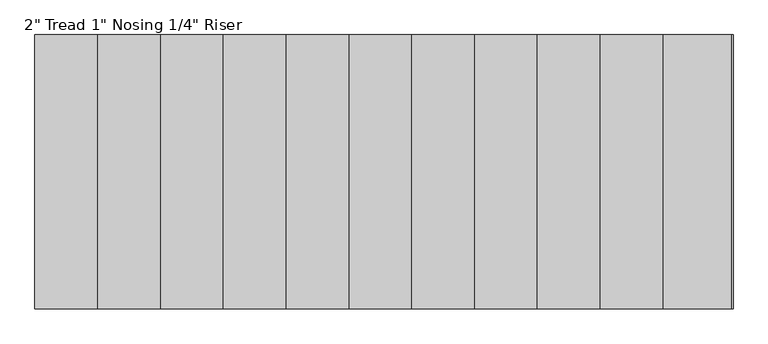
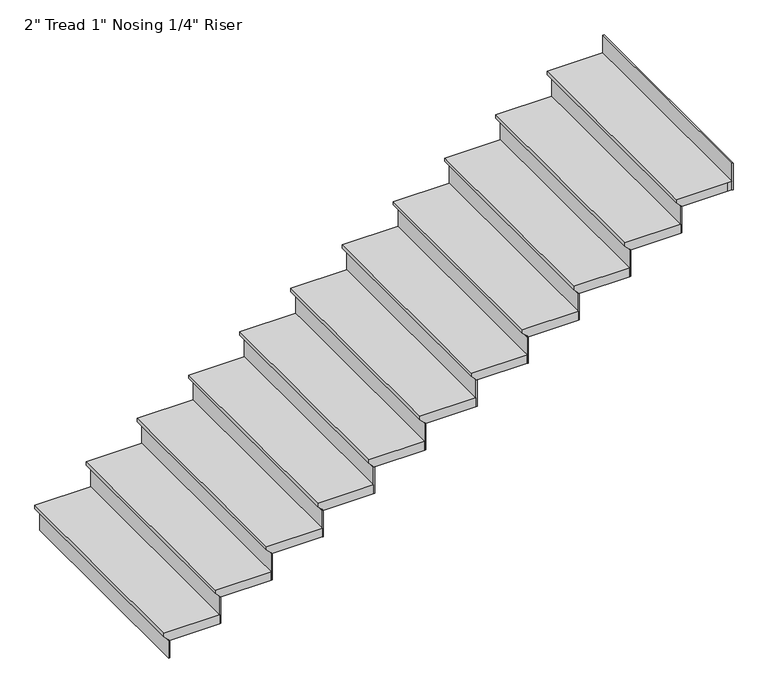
"""IFC4 building model written with IfcOpenShell, lengths in millimetres: stair flight geometry."""

from ifc_helpers import new_model, si_unit, origin, place, context, project, spatial, faceted_brep, source, transform, mapped, element, save


def stair_flight_750c05fa(model_context):
    return source(origin(), model_context, "Body", "Brep", [
        faceted_brep([(15326.0726301, 7726.1746638, 133.35), (15326.0726301, 7726.1746638, 152.4), (15326.0726301, 8945.3746638, 152.4), (15326.0726301, 8945.3746638, 133.35), (15351.4726301, 7726.1746638, 107.95), (15351.4726301, 8945.3746638, 107.95), (15630.8726301, 7726.1746638, 152.4), (15630.8726301, 8945.3746638, 152.4), (15351.4726301, 8945.3746638, 101.6), (15630.8726301, 8945.3746638, 101.6), (15630.8726301, 7726.1746638, 101.6), (15351.4726301, 7726.1746638, 101.6)], [[[0, 1, 2, 3]], [[4, 0, 3, 5]], [[2, 1, 6, 7]], [[8, 9, 10, 11]], [[2, 7, 9, 8, 5, 3]], [[8, 11, 4, 5]], [[6, 1, 0, 4, 11, 10]], [[7, 6, 10, 9]]]),
        faceted_brep([(15351.4726301, 7726.1746638, 101.6), (15351.4726301, 7726.1746638, 0.0), (15357.8226301, 7726.1746638, 0.0), (15357.8226301, 7726.1746638, 101.6), (15351.4726301, 8945.3746638, 101.6), (15357.8226301, 8945.3746638, 101.6), (15357.8226301, 8945.3746638, 0.0), (15351.4726301, 8945.3746638, 0.0)], [[[0, 1, 2, 3]], [[4, 5, 6, 7]], [[1, 0, 4, 7]], [[2, 1, 7, 6]], [[3, 2, 6, 5]], [[0, 3, 5, 4]]]),
        faceted_brep([(15630.8726301, 7726.1746638, 254.0), (15630.8726301, 7726.1746638, 101.6), (15637.2226301, 7726.1746638, 101.6), (15637.2226301, 7726.1746638, 254.0), (15630.8726301, 8945.3746638, 254.0), (15637.2226301, 8945.3746638, 254.0), (15637.2226301, 8945.3746638, 101.6), (15630.8726301, 8945.3746638, 101.6)], [[[0, 1, 2, 3]], [[4, 5, 6, 7]], [[1, 0, 4, 7]], [[2, 1, 7, 6]], [[3, 2, 6, 5]], [[0, 3, 5, 4]]]),
        faceted_brep([(15605.4726301, 8945.3746638, 304.8), (15605.4726301, 7726.1746638, 304.8), (15910.2726301, 7726.1746638, 304.8), (15910.2726301, 8945.3746638, 304.8), (15630.8726301, 8945.3746638, 254.0), (15910.2726301, 8945.3746638, 254.0), (15910.2726301, 7726.1746638, 254.0), (15630.8726301, 7726.1746638, 254.0), (15630.8726301, 8945.3746638, 260.35), (15605.4726301, 8945.3746638, 285.75), (15630.8726301, 7726.1746638, 260.35), (15605.4726301, 7726.1746638, 285.75)], [[[0, 1, 2, 3]], [[4, 5, 6, 7]], [[0, 3, 5, 4, 8, 9]], [[4, 7, 10, 8]], [[2, 1, 11, 10, 7, 6]], [[3, 2, 6, 5]], [[11, 1, 0, 9]], [[10, 11, 9, 8]]]),
        faceted_brep([(15910.2726301, 7726.1746638, 406.4), (15910.2726301, 7726.1746638, 254.0), (15916.6226301, 7726.1746638, 254.0), (15916.6226301, 7726.1746638, 406.4), (15910.2726301, 8945.3746638, 406.4), (15916.6226301, 8945.3746638, 406.4), (15916.6226301, 8945.3746638, 254.0), (15910.2726301, 8945.3746638, 254.0)], [[[0, 1, 2, 3]], [[4, 5, 6, 7]], [[1, 0, 4, 7]], [[2, 1, 7, 6]], [[3, 2, 6, 5]], [[0, 3, 5, 4]]]),
        faceted_brep([(15884.8726301, 8945.3746638, 457.2), (15884.8726301, 7726.1746638, 457.2), (16189.6726301, 7726.1746638, 457.2), (16189.6726301, 8945.3746638, 457.2), (15910.2726301, 8945.3746638, 406.4), (16189.6726301, 8945.3746638, 406.4), (16189.6726301, 7726.1746638, 406.4), (15910.2726301, 7726.1746638, 406.4), (15910.2726301, 8945.3746638, 412.75), (15884.8726301, 8945.3746638, 438.15), (15910.2726301, 7726.1746638, 412.75), (15884.8726301, 7726.1746638, 438.15)], [[[0, 1, 2, 3]], [[4, 5, 6, 7]], [[0, 3, 5, 4, 8, 9]], [[4, 7, 10, 8]], [[2, 1, 11, 10, 7, 6]], [[3, 2, 6, 5]], [[11, 1, 0, 9]], [[10, 11, 9, 8]]]),
        faceted_brep([(16189.6726301, 7726.1746638, 558.8), (16189.6726301, 7726.1746638, 406.4), (16196.0226301, 7726.1746638, 406.4), (16196.0226301, 7726.1746638, 558.8), (16189.6726301, 8945.3746638, 558.8), (16196.0226301, 8945.3746638, 558.8), (16196.0226301, 8945.3746638, 406.4), (16189.6726301, 8945.3746638, 406.4)], [[[0, 1, 2, 3]], [[4, 5, 6, 7]], [[1, 0, 4, 7]], [[2, 1, 7, 6]], [[3, 2, 6, 5]], [[0, 3, 5, 4]]]),
        faceted_brep([(16164.2726301, 8945.3746638, 609.6), (16164.2726301, 7726.1746638, 609.6), (16469.0726301, 7726.1746638, 609.6), (16469.0726301, 8945.3746638, 609.6), (16189.6726301, 8945.3746638, 558.8), (16469.0726301, 8945.3746638, 558.8), (16469.0726301, 7726.1746638, 558.8), (16189.6726301, 7726.1746638, 558.8), (16189.6726301, 8945.3746638, 565.15), (16164.2726301, 8945.3746638, 590.55), (16189.6726301, 7726.1746638, 565.15), (16164.2726301, 7726.1746638, 590.55)], [[[0, 1, 2, 3]], [[4, 5, 6, 7]], [[0, 3, 5, 4, 8, 9]], [[4, 7, 10, 8]], [[2, 1, 11, 10, 7, 6]], [[3, 2, 6, 5]], [[11, 1, 0, 9]], [[10, 11, 9, 8]]]),
        faceted_brep([(16469.0726301, 7726.1746638, 711.2), (16469.0726301, 7726.1746638, 558.8), (16475.4226301, 7726.1746638, 558.8), (16475.4226301, 7726.1746638, 711.2), (16469.0726301, 8945.3746638, 711.2), (16475.4226301, 8945.3746638, 711.2), (16475.4226301, 8945.3746638, 558.8), (16469.0726301, 8945.3746638, 558.8)], [[[0, 1, 2, 3]], [[4, 5, 6, 7]], [[1, 0, 4, 7]], [[2, 1, 7, 6]], [[3, 2, 6, 5]], [[0, 3, 5, 4]]]),
        faceted_brep([(16443.6726301, 8945.3746638, 762.0), (16443.6726301, 7726.1746638, 762.0), (16748.4726301, 7726.1746638, 762.0), (16748.4726301, 8945.3746638, 762.0), (16469.0726301, 8945.3746638, 711.2), (16748.4726301, 8945.3746638, 711.2), (16748.4726301, 7726.1746638, 711.2), (16469.0726301, 7726.1746638, 711.2), (16469.0726301, 8945.3746638, 717.55), (16443.6726301, 8945.3746638, 742.95), (16469.0726301, 7726.1746638, 717.55), (16443.6726301, 7726.1746638, 742.95)], [[[0, 1, 2, 3]], [[4, 5, 6, 7]], [[0, 3, 5, 4, 8, 9]], [[4, 7, 10, 8]], [[2, 1, 11, 10, 7, 6]], [[3, 2, 6, 5]], [[11, 1, 0, 9]], [[10, 11, 9, 8]]]),
        faceted_brep([(16748.4726301, 7726.1746638, 863.6), (16748.4726301, 7726.1746638, 711.2), (16754.8226301, 7726.1746638, 711.2), (16754.8226301, 7726.1746638, 863.6), (16748.4726301, 8945.3746638, 863.6), (16754.8226301, 8945.3746638, 863.6), (16754.8226301, 8945.3746638, 711.2), (16748.4726301, 8945.3746638, 711.2)], [[[0, 1, 2, 3]], [[4, 5, 6, 7]], [[1, 0, 4, 7]], [[2, 1, 7, 6]], [[3, 2, 6, 5]], [[0, 3, 5, 4]]]),
        faceted_brep([(16723.0726301, 8945.3746638, 914.4), (16723.0726301, 7726.1746638, 914.4), (17027.8726301, 7726.1746638, 914.4), (17027.8726301, 8945.3746638, 914.4), (16748.4726301, 8945.3746638, 863.6), (17027.8726301, 8945.3746638, 863.6), (17027.8726301, 7726.1746638, 863.6), (16748.4726301, 7726.1746638, 863.6), (16748.4726301, 8945.3746638, 869.95), (16723.0726301, 8945.3746638, 895.35), (16748.4726301, 7726.1746638, 869.95), (16723.0726301, 7726.1746638, 895.35)], [[[0, 1, 2, 3]], [[4, 5, 6, 7]], [[0, 3, 5, 4, 8, 9]], [[4, 7, 10, 8]], [[2, 1, 11, 10, 7, 6]], [[3, 2, 6, 5]], [[11, 1, 0, 9]], [[10, 11, 9, 8]]]),
        faceted_brep([(17027.8726301, 7726.1746638, 1016.0), (17027.8726301, 7726.1746638, 863.6), (17034.2226301, 7726.1746638, 863.6), (17034.2226301, 7726.1746638, 1016.0), (17027.8726301, 8945.3746638, 1016.0), (17034.2226301, 8945.3746638, 1016.0), (17034.2226301, 8945.3746638, 863.6), (17027.8726301, 8945.3746638, 863.6)], [[[0, 1, 2, 3]], [[4, 5, 6, 7]], [[1, 0, 4, 7]], [[2, 1, 7, 6]], [[3, 2, 6, 5]], [[0, 3, 5, 4]]]),
        faceted_brep([(17002.4726301, 8945.3746638, 1066.8), (17002.4726301, 7726.1746638, 1066.8), (17307.2726301, 7726.1746638, 1066.8), (17307.2726301, 8945.3746638, 1066.8), (17027.8726301, 8945.3746638, 1016.0), (17307.2726301, 8945.3746638, 1016.0), (17307.2726301, 7726.1746638, 1016.0), (17027.8726301, 7726.1746638, 1016.0), (17027.8726301, 8945.3746638, 1022.35), (17002.4726301, 8945.3746638, 1047.75), (17027.8726301, 7726.1746638, 1022.35), (17002.4726301, 7726.1746638, 1047.75)], [[[0, 1, 2, 3]], [[4, 5, 6, 7]], [[0, 3, 5, 4, 8, 9]], [[4, 7, 10, 8]], [[2, 1, 11, 10, 7, 6]], [[3, 2, 6, 5]], [[11, 1, 0, 9]], [[10, 11, 9, 8]]]),
        faceted_brep([(17307.2726301, 7726.1746638, 1168.4), (17307.2726301, 7726.1746638, 1016.0), (17313.6226301, 7726.1746638, 1016.0), (17313.6226301, 7726.1746638, 1168.4), (17307.2726301, 8945.3746638, 1168.4), (17313.6226301, 8945.3746638, 1168.4), (17313.6226301, 8945.3746638, 1016.0), (17307.2726301, 8945.3746638, 1016.0)], [[[0, 1, 2, 3]], [[4, 5, 6, 7]], [[1, 0, 4, 7]], [[2, 1, 7, 6]], [[3, 2, 6, 5]], [[0, 3, 5, 4]]]),
        faceted_brep([(17281.8726301, 8945.3746638, 1219.2), (17281.8726301, 7726.1746638, 1219.2), (17586.6726301, 7726.1746638, 1219.2), (17586.6726301, 8945.3746638, 1219.2), (17307.2726301, 8945.3746638, 1168.4), (17586.6726301, 8945.3746638, 1168.4), (17586.6726301, 7726.1746638, 1168.4), (17307.2726301, 7726.1746638, 1168.4), (17307.2726301, 8945.3746638, 1174.75), (17281.8726301, 8945.3746638, 1200.15), (17307.2726301, 7726.1746638, 1174.75), (17281.8726301, 7726.1746638, 1200.15)], [[[0, 1, 2, 3]], [[4, 5, 6, 7]], [[0, 3, 5, 4, 8, 9]], [[4, 7, 10, 8]], [[2, 1, 11, 10, 7, 6]], [[3, 2, 6, 5]], [[11, 1, 0, 9]], [[10, 11, 9, 8]]]),
        faceted_brep([(17586.6726301, 7726.1746638, 1320.8), (17586.6726301, 7726.1746638, 1168.4), (17593.0226301, 7726.1746638, 1168.4), (17593.0226301, 7726.1746638, 1320.8), (17586.6726301, 8945.3746638, 1320.8), (17593.0226301, 8945.3746638, 1320.8), (17593.0226301, 8945.3746638, 1168.4), (17586.6726301, 8945.3746638, 1168.4)], [[[0, 1, 2, 3]], [[4, 5, 6, 7]], [[1, 0, 4, 7]], [[2, 1, 7, 6]], [[3, 2, 6, 5]], [[0, 3, 5, 4]]]),
        faceted_brep([(17561.2726301, 8945.3746638, 1371.6), (17561.2726301, 7726.1746638, 1371.6), (17866.0726301, 7726.1746638, 1371.6), (17866.0726301, 8945.3746638, 1371.6), (17586.6726301, 8945.3746638, 1320.8), (17866.0726301, 8945.3746638, 1320.8), (17866.0726301, 7726.1746638, 1320.8), (17586.6726301, 7726.1746638, 1320.8), (17586.6726301, 8945.3746638, 1327.15), (17561.2726301, 8945.3746638, 1352.55), (17586.6726301, 7726.1746638, 1327.15), (17561.2726301, 7726.1746638, 1352.55)], [[[0, 1, 2, 3]], [[4, 5, 6, 7]], [[0, 3, 5, 4, 8, 9]], [[4, 7, 10, 8]], [[2, 1, 11, 10, 7, 6]], [[3, 2, 6, 5]], [[11, 1, 0, 9]], [[10, 11, 9, 8]]]),
        faceted_brep([(17866.0726301, 7726.1746638, 1473.2), (17866.0726301, 7726.1746638, 1320.8), (17872.4226301, 7726.1746638, 1320.8), (17872.4226301, 7726.1746638, 1473.2), (17866.0726301, 8945.3746638, 1473.2), (17872.4226301, 8945.3746638, 1473.2), (17872.4226301, 8945.3746638, 1320.8), (17866.0726301, 8945.3746638, 1320.8)], [[[0, 1, 2, 3]], [[4, 5, 6, 7]], [[1, 0, 4, 7]], [[2, 1, 7, 6]], [[3, 2, 6, 5]], [[0, 3, 5, 4]]]),
        faceted_brep([(17840.6726301, 8945.3746638, 1524.0), (17840.6726301, 7726.1746638, 1524.0), (18145.4726301, 7726.1746638, 1524.0), (18145.4726301, 8945.3746638, 1524.0), (17866.0726301, 8945.3746638, 1473.2), (18145.4726301, 8945.3746638, 1473.2), (18145.4726301, 7726.1746638, 1473.2), (17866.0726301, 7726.1746638, 1473.2), (17866.0726301, 8945.3746638, 1479.55), (17840.6726301, 8945.3746638, 1504.95), (17866.0726301, 7726.1746638, 1479.55), (17840.6726301, 7726.1746638, 1504.95)], [[[0, 1, 2, 3]], [[4, 5, 6, 7]], [[0, 3, 5, 4, 8, 9]], [[4, 7, 10, 8]], [[2, 1, 11, 10, 7, 6]], [[3, 2, 6, 5]], [[11, 1, 0, 9]], [[10, 11, 9, 8]]]),
        faceted_brep([(18424.8726301, 7726.1746638, 1778.0), (18424.8726301, 7726.1746638, 1625.6), (18431.2226301, 7726.1746638, 1625.6), (18431.2226301, 7726.1746638, 1778.0), (18424.8726301, 8945.3746638, 1778.0), (18431.2226301, 8945.3746638, 1778.0), (18431.2226301, 8945.3746638, 1625.6), (18424.8726301, 8945.3746638, 1625.6)], [[[0, 1, 2, 3]], [[4, 5, 6, 7]], [[1, 0, 4, 7]], [[2, 1, 7, 6]], [[3, 2, 6, 5]], [[0, 3, 5, 4]]]),
        faceted_brep([(18145.4726301, 7726.1746638, 1625.6), (18145.4726301, 7726.1746638, 1473.2), (18151.8226301, 7726.1746638, 1473.2), (18151.8226301, 7726.1746638, 1625.6), (18145.4726301, 8945.3746638, 1625.6), (18151.8226301, 8945.3746638, 1625.6), (18151.8226301, 8945.3746638, 1473.2), (18145.4726301, 8945.3746638, 1473.2)], [[[0, 1, 2, 3]], [[4, 5, 6, 7]], [[1, 0, 4, 7]], [[2, 1, 7, 6]], [[3, 2, 6, 5]], [[0, 3, 5, 4]]]),
        faceted_brep([(18424.8726301, 8945.3746638, 1676.4), (18399.4726301, 8945.3746638, 1676.4), (18120.0726301, 8945.3746638, 1676.4), (18120.0726301, 7726.1746638, 1676.4), (18399.4726301, 7726.1746638, 1676.4), (18424.8726301, 7726.1746638, 1676.4), (18399.4726301, 8945.3746638, 1625.6), (18424.8726301, 8945.3746638, 1625.6), (18424.8726301, 7726.1746638, 1625.6), (18399.4726301, 7726.1746638, 1625.6), (18145.4726301, 7726.1746638, 1625.6), (18145.4726301, 8945.3746638, 1625.6), (18145.4726301, 8945.3746638, 1631.95), (18120.0726301, 8945.3746638, 1657.35), (18145.4726301, 7726.1746638, 1631.95), (18120.0726301, 7726.1746638, 1657.35)], [[[0, 1, 2, 3, 4, 5]], [[6, 7, 8, 9, 10, 11]], [[1, 0, 7, 6]], [[2, 1, 6, 11, 12, 13]], [[11, 10, 14, 12]], [[4, 3, 15, 14, 10, 9]], [[5, 4, 9, 8]], [[0, 5, 8, 7]], [[15, 3, 2, 13]], [[14, 15, 13, 12]]]),
    ])


if __name__ == "__main__":
    model = new_model("IFC4")
    model_context = context("Model", 3, world=origin())
    ifc_project = project(units=[si_unit("LENGTHUNIT", "METRE", prefix="MILLI")], contexts=[model_context])
    site = spatial("IfcSite", under=ifc_project)
    building = spatial("IfcBuilding", under=site)
    placement = place(None, origin())
    stair_flight_shape = stair_flight_750c05fa(model_context)
    element("IfcStairFlight", 1, ObjectType="2\" Tread 1\" Nosing 1/4\" Riser", at=placement, inside=building, context=model_context, shape_type="MappedRepresentation", body=[
        mapped(stair_flight_shape, transform((0.0, 0.0, 0.0), x_axis=(1.0, 0.0, 0.0), y_axis=(0.0, 1.0, 0.0), z_axis=(0.0, 0.0, 1.0))),
    ])
    save(model, "model.ifc")
